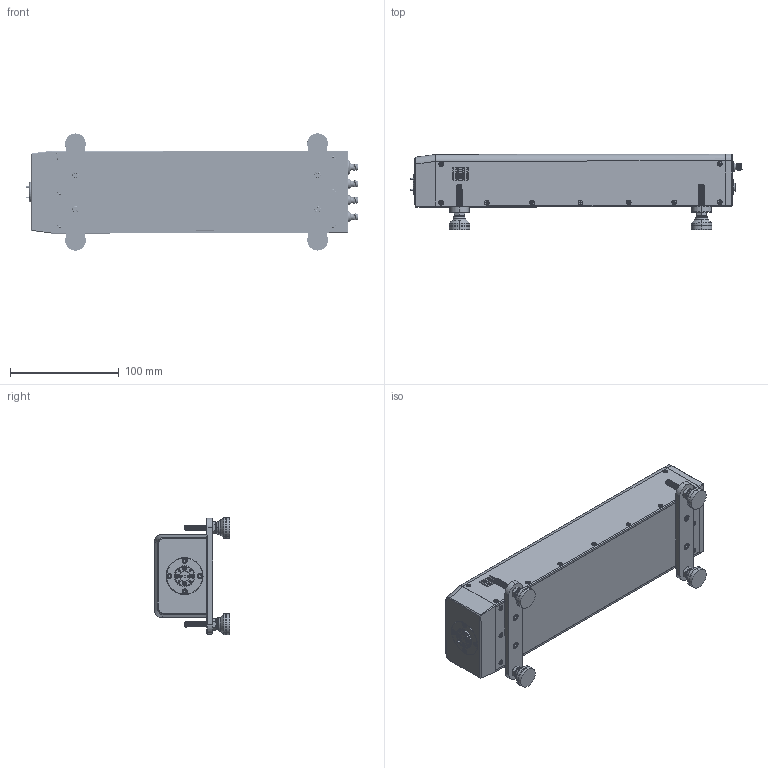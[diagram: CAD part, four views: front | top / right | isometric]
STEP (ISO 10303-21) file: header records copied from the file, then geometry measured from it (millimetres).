
FILE_DESCRIPTION (( 'STEP AP214' ), '1' );
FILE_NAME ('TO-SD-A, Defeatured.STEP', '2023-06-28T18:03:17', ( '' ), ( '' ), 'SwSTEP 2.0', 'SolidWorks 2021', '' );
FILE_SCHEMA (( 'AUTOMOTIVE_DESIGN' ));
Length unit declared in the file: inch
Products named in the file (1): TO-SD-A, Defeatured
Bounding box: 305.75 x 69.72 x 108.07 mm (x, y, z)
Volume: 1094417.4 mm3; surface area: 166913.7 mm2
Topology: 56 solids, 67 shells, 2395 faces, 5888 edges, 3704 vertices
Faces by surface type: cylinder 931, plane 884, cone 526, bspline 34, sphere 16, torus 4
Entity records: 122780 total; most frequent: CARTESIAN_POINT 45434, ORIENTED_EDGE 11504, DIRECTION 10918, EDGE_CURVE 5752, AXIS2_PLACEMENT_3D 4224, VERTEX_POINT 3680, EDGE_LOOP 2670, LINE 2470
